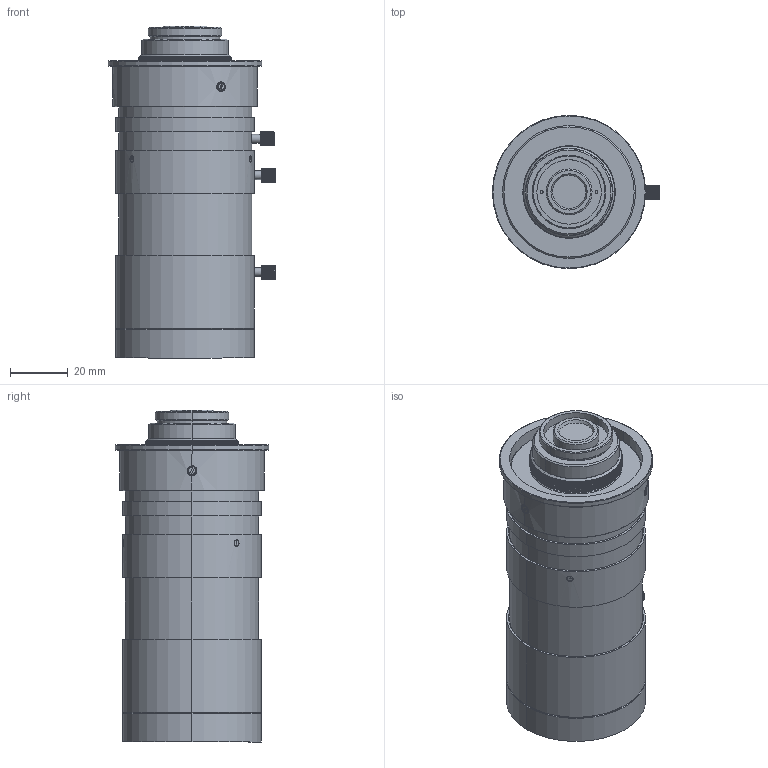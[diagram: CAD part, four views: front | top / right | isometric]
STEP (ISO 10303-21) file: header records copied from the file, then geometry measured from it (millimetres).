
FILE_DESCRIPTION(('STEP AP214'),'1');
FILE_NAME('SDS-LRA.stp','2022-09-28T02:02:55',(' '),(' '),'Spatial InterOp 3D',' ',' ');
FILE_SCHEMA(('AUTOMOTIVE_DESIGN { 1 0 10303 214 1 1 1 1 }'));
Length unit declared in the file: metre
Products named in the file (2): SDS-LRA; Component1
Assembly tree (1 placements, depth 2):
  SDS-LRA
    Component1
Bounding box: 57.8 x 53 x 114.8 mm (x, y, z)
Volume: 172004.6 mm3; surface area: 30056 mm2
Topology: 1 solids, 6 shells, 1989 faces, 4642 edges, 2785 vertices
Faces by surface type: plane 1632, cylinder 272, cone 72, bspline 12, sphere 1
Entity records: 58940 total; most frequent: CARTESIAN_POINT 13069, DIRECTION 9713, ORIENTED_EDGE 9284, EDGE_CURVE 4642, LINE 3373, VECTOR 3373, AXIS2_PLACEMENT_3D 3170, VERTEX_POINT 2785
